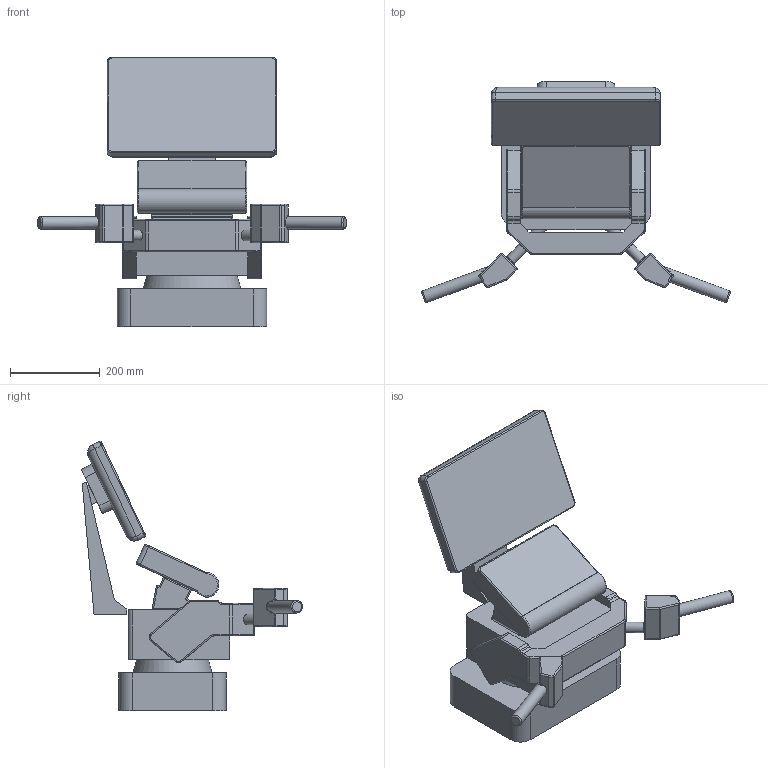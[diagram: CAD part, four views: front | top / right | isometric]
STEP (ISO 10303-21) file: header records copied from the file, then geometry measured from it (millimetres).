
FILE_DESCRIPTION(/* description */ ('Unknown'),/* implementation_level */ '2;1');
FILE_NAME(/* name */ '3D_ RoboSpot',/* time_stamp */ '2017-10-30T10:20:12+01:00',/* author */ ('Unknown'),/* organization */ ('Unknown'),/* preprocessor_version */ 'ST-DEVELOPER v16.7',/* originating_system */ 'DEX',/* authorisation */ $);
FILE_SCHEMA (('AUTOMOTIVE_DESIGN {1 0 10303 214 3 1 1}'));
Length unit declared in the file: millimetre
Products named in the file (5): 3D 99015333 RoboSpot; 3d z嫜l; 3d ovl; 3D dr mon; 3D XY
Assembly tree (4 placements, depth 2):
  3D 99015333 RoboSpot
    3d z嫜l
    3d ovl
    3D dr mon
    3D XY
Bounding box: 688.18 x 492.62 x 600.3 mm (x, y, z)
Volume: 24728825 mm3; surface area: 1153107.1 mm2
Topology: 4 solids, 4 shells, 289 faces, 712 edges, 431 vertices
Faces by surface type: cylinder 134, plane 96, torus 38, bspline 17, sphere 4
Full cylindrical faces by diameter (mm): 23.618 x4, 27.928 x2, 30 x2
Entity records: 9139 total; most frequent: CARTESIAN_POINT 2161, DIRECTION 1538, ORIENTED_EDGE 1376, EDGE_CURVE 688, AXIS2_PLACEMENT_3D 591, VERTEX_POINT 424, LINE 356, VECTOR 356
